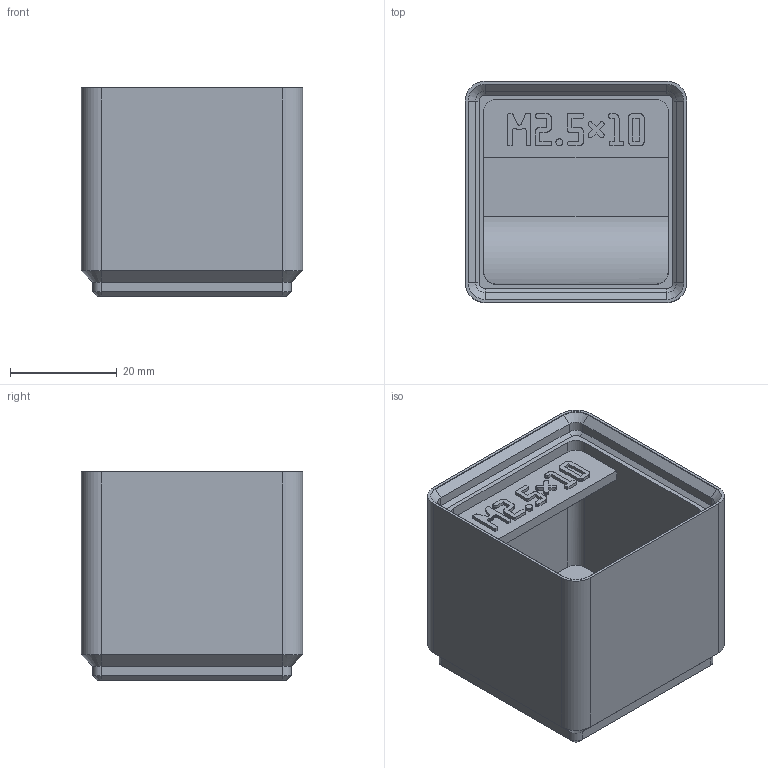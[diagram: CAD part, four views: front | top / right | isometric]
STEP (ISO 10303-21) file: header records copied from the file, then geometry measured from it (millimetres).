
FILE_DESCRIPTION(('Open CASCADE Model'),'2;1');
FILE_NAME('m2p5-screw-10','2026-11-17T16:07:59',('Author'),( 'Open CASCADE'),'Open CASCADE STEP processor 8.0','build123d', 'Unknown');
FILE_SCHEMA(('AUTOMOTIVE_DESIGN { 1 0 10303 214 1 1 1 1 }'));
Length unit declared in the file: millimetre
Products named in the file (1): m2p5-screw-10
Bounding box: 41.5 x 41.5 x 39 mm (x, y, z)
Volume: 30869.2 mm3; surface area: 13696.4 mm2
Topology: 1 solids, 1 shells, 718 faces, 2070 edges, 1364 vertices
Faces by surface type: plane 679, cylinder 22, cone 16, extrusion 1
Entity records: 48920 total; most frequent: CARTESIAN_POINT 10048, DIRECTION 6303, VECTOR 4745, LINE 4744, ORIENTED_EDGE 4140, PCURVE 4140, DEFINITIONAL_REPRESENTATION 4140, EDGE_CURVE 2070
